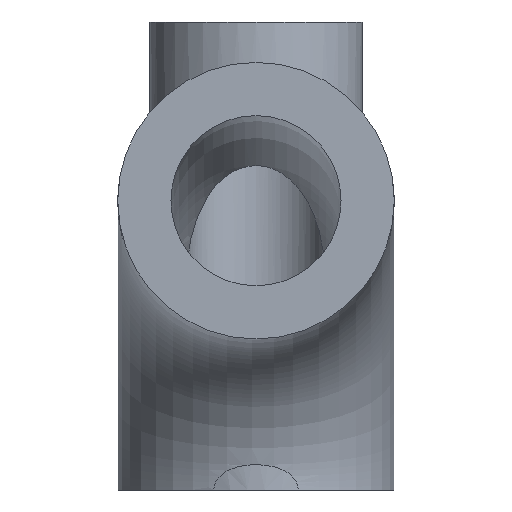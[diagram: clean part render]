
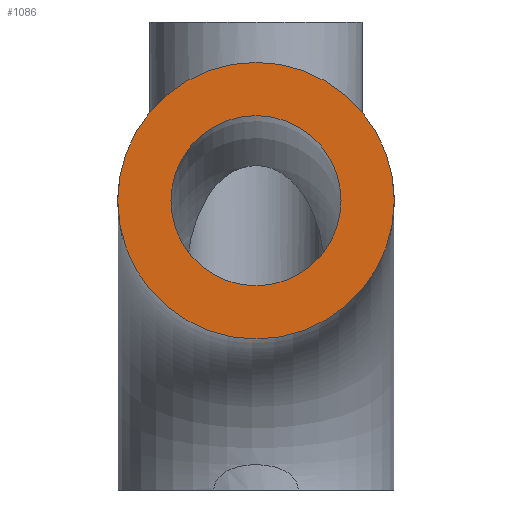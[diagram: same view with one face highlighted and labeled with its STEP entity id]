
A CAD part, left-side view. The second image highlights one B-rep face of the part: STEP entity #1086.
In plain terms, the highlighted planar face has unit normal (-1, 0, 0).
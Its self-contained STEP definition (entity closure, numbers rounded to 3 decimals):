
#33 = TOROIDAL_SURFACE('',#34,68.,32.5);
#34 = AXIS2_PLACEMENT_3D('',#35,#36,#37);
#35 = CARTESIAN_POINT('',(0.,0.,0.));
#36 = DIRECTION('',(-0.,1.,-0.));
#37 = DIRECTION('',(1.,0.,0.));
#568 = VERTEX_POINT('',#569);
#569 = CARTESIAN_POINT('',(0.,0.,100.5));
#591 = EDGE_CURVE('',#568,#568,#592,.T.);
#592 = SURFACE_CURVE('',#593,(#598,#605),.PCURVE_S1.);
#593 = CIRCLE('',#594,32.5);
#594 = AXIS2_PLACEMENT_3D('',#595,#596,#597);
#595 = CARTESIAN_POINT('',(0.,0.,68.));
#596 = DIRECTION('',(-1.,0.,0.));
#597 = DIRECTION('',(0.,0.,1.));
#598 = PCURVE('',#33,#599);
#599 = DEFINITIONAL_REPRESENTATION('',(#600),#604);
#600 = LINE('',#601,#602);
#601 = CARTESIAN_POINT('',(-1.571,0.));
#602 = VECTOR('',#603,1.);
#603 = DIRECTION('',(-0.,1.));
#604 = ( GEOMETRIC_REPRESENTATION_CONTEXT(2) 
PARAMETRIC_REPRESENTATION_CONTEXT() REPRESENTATION_CONTEXT('2D SPACE',''
  ) );
#605 = PCURVE('',#606,#611);
#606 = PLANE('',#607);
#607 = AXIS2_PLACEMENT_3D('',#608,#609,#610);
#608 = CARTESIAN_POINT('',(0.,0.,68.));
#609 = DIRECTION('',(-1.,0.,0.));
#610 = DIRECTION('',(0.,0.,1.));
#611 = DEFINITIONAL_REPRESENTATION('',(#612),#616);
#612 = CIRCLE('',#613,32.5);
#613 = AXIS2_PLACEMENT_2D('',#614,#615);
#614 = CARTESIAN_POINT('',(0.,0.));
#615 = DIRECTION('',(1.,0.));
#616 = ( GEOMETRIC_REPRESENTATION_CONTEXT(2) 
PARAMETRIC_REPRESENTATION_CONTEXT() REPRESENTATION_CONTEXT('2D SPACE',''
  ) );
#959 = TOROIDAL_SURFACE('',#960,68.,20.);
#960 = AXIS2_PLACEMENT_3D('',#961,#962,#963);
#961 = CARTESIAN_POINT('',(0.,0.,0.));
#962 = DIRECTION('',(-0.,1.,-0.));
#963 = DIRECTION('',(1.,0.,0.));
#1086 = ADVANCED_FACE('',(#1087,#1090),#606,.T.);
#1087 = FACE_BOUND('',#1088,.T.);
#1088 = EDGE_LOOP('',(#1089));
#1089 = ORIENTED_EDGE('',*,*,#591,.T.);
#1090 = FACE_BOUND('',#1091,.T.);
#1091 = EDGE_LOOP('',(#1092));
#1092 = ORIENTED_EDGE('',*,*,#1093,.F.);
#1093 = EDGE_CURVE('',#1094,#1094,#1096,.T.);
#1094 = VERTEX_POINT('',#1095);
#1095 = CARTESIAN_POINT('',(0.,0.,88.));
#1096 = SURFACE_CURVE('',#1097,(#1102,#1109),.PCURVE_S1.);
#1097 = CIRCLE('',#1098,20.);
#1098 = AXIS2_PLACEMENT_3D('',#1099,#1100,#1101);
#1099 = CARTESIAN_POINT('',(0.,0.,68.));
#1100 = DIRECTION('',(-1.,0.,0.));
#1101 = DIRECTION('',(0.,0.,1.));
#1102 = PCURVE('',#606,#1103);
#1103 = DEFINITIONAL_REPRESENTATION('',(#1104),#1108);
#1104 = CIRCLE('',#1105,20.);
#1105 = AXIS2_PLACEMENT_2D('',#1106,#1107);
#1106 = CARTESIAN_POINT('',(0.,0.));
#1107 = DIRECTION('',(1.,0.));
#1108 = ( GEOMETRIC_REPRESENTATION_CONTEXT(2) 
PARAMETRIC_REPRESENTATION_CONTEXT() REPRESENTATION_CONTEXT('2D SPACE',''
  ) );
#1109 = PCURVE('',#959,#1110);
#1110 = DEFINITIONAL_REPRESENTATION('',(#1111),#1115);
#1111 = LINE('',#1112,#1113);
#1112 = CARTESIAN_POINT('',(-1.571,0.));
#1113 = VECTOR('',#1114,1.);
#1114 = DIRECTION('',(-0.,1.));
#1115 = ( GEOMETRIC_REPRESENTATION_CONTEXT(2) 
PARAMETRIC_REPRESENTATION_CONTEXT() REPRESENTATION_CONTEXT('2D SPACE',''
  ) );
